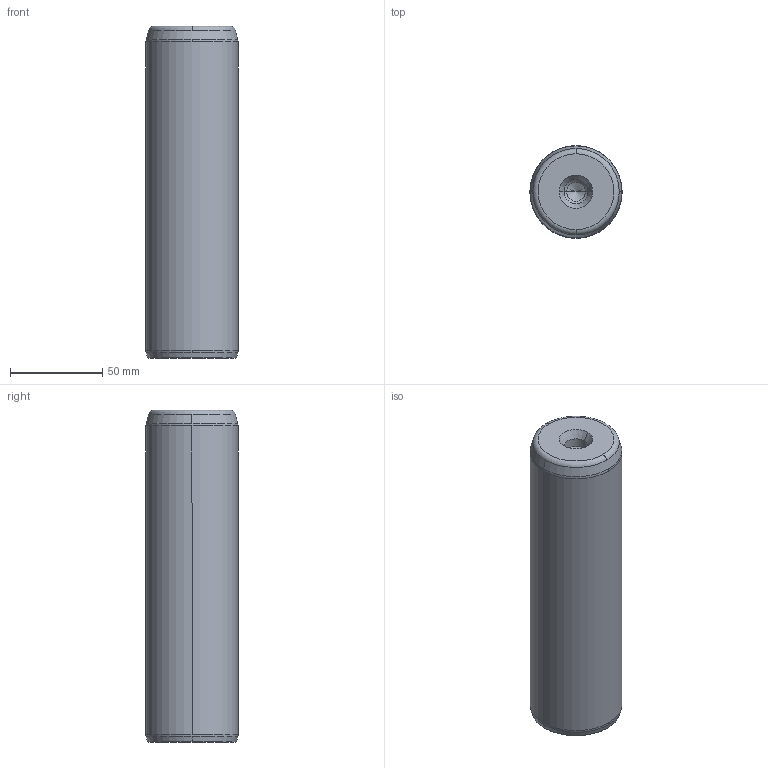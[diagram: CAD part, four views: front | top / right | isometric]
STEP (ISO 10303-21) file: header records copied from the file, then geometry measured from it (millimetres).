
FILE_DESCRIPTION((''),'2;1');
FILE_NAME('P10_050_180.stp','2008-12-23T16:13:07',(''),(''),'Mechanical Desktop 2009','Mechanical Desktop 2009',', , ');
FILE_SCHEMA(('CONFIG_CONTROL_DESIGN'));
Length unit declared in the file: millimetre
Products named in the file (5): Product; ProductAA; blmdl1; ProductA; blmdl1A
Assembly tree (2 placements, depth 3):
  Product
    ProductAA
      blmdl1
  ProductA
  blmdl1A
Bounding box: 50 x 50 x 180 mm (x, y, z)
Volume: 347791.9 mm3; surface area: 32837.5 mm2
Topology: 1 solids, 1 shells, 26 faces, 66 edges, 41 vertices
Faces by surface type: cone 10, torus 8, cylinder 6, plane 2
Entity records: 1012 total; most frequent: DIRECTION 170, CARTESIAN_POINT 134, ORIENTED_EDGE 128, AXIS2_PLACEMENT_3D 77, EDGE_CURVE 64, CIRCLE 48, VERTEX_POINT 41, EDGE_LOOP 27
